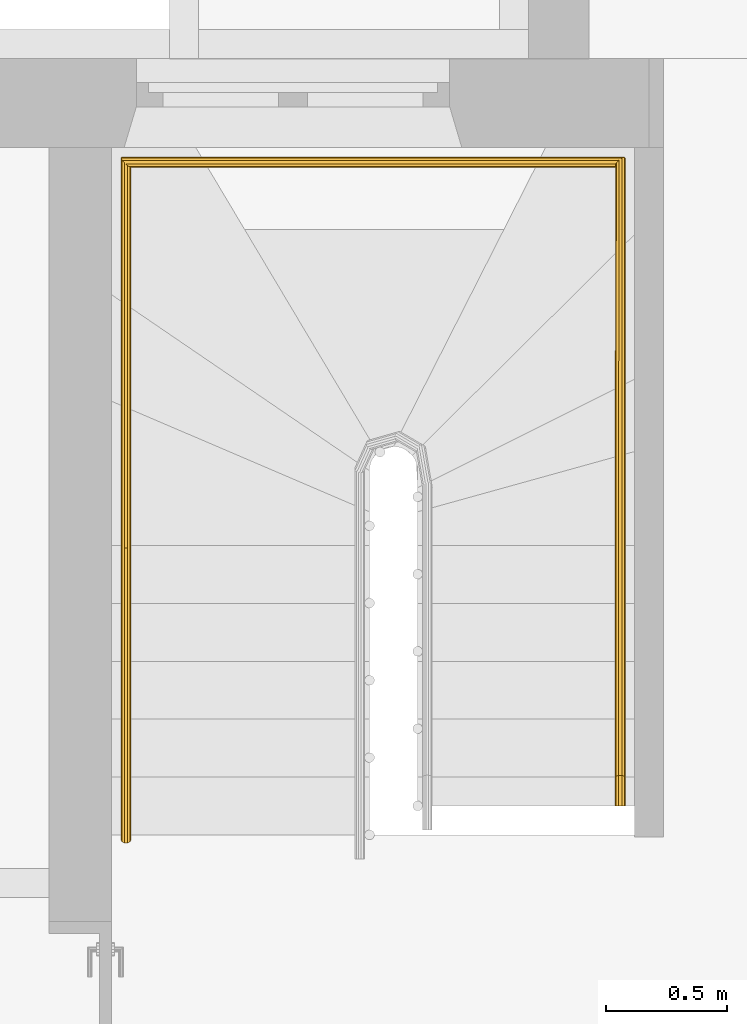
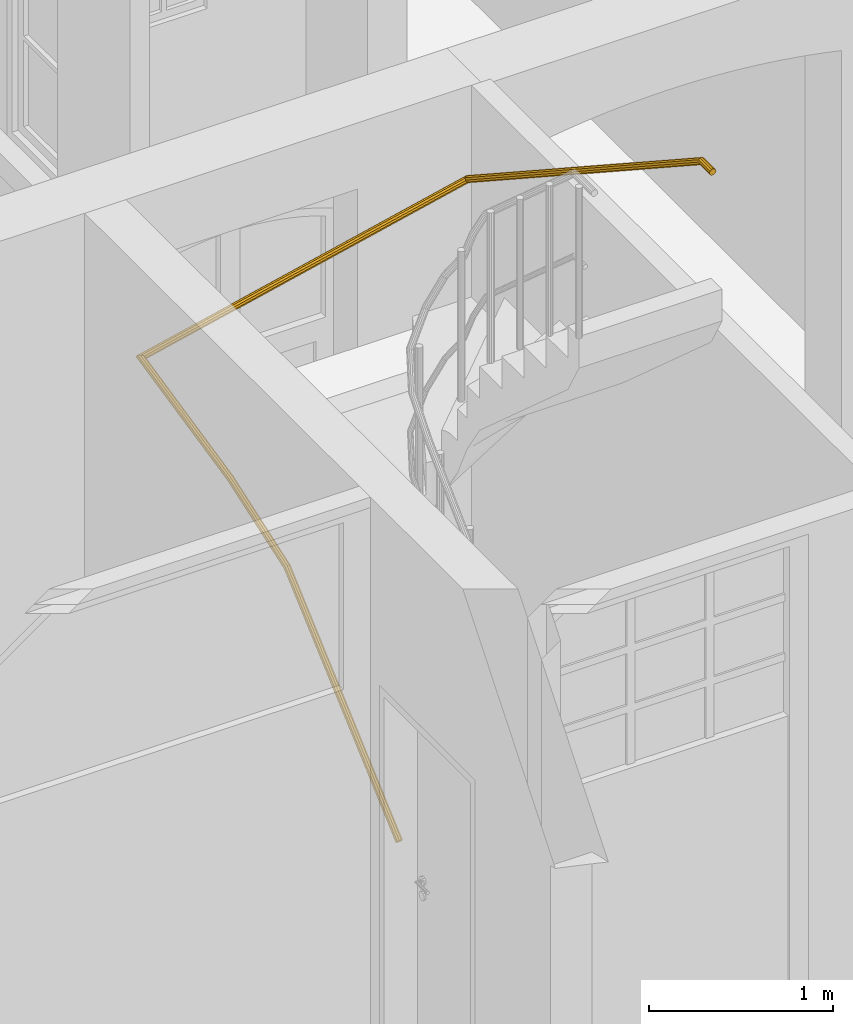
"""IFC4 building model written with IfcOpenShell, lengths in metres."""

from ifc_helpers import new_model, entity, si_unit, converted_unit, derived_unit, frame, origin, place, context, subcontext, project, spatial, faceted_brep, material, element, save


model = new_model("IFC4")

# Units and contexts
model_context = context("Model", 3, precision=1e-05, world=origin())
body_context = subcontext(model_context, "Body", "Model", "MODEL_VIEW")
ifc_project = project(units=[si_unit("LENGTHUNIT", "METRE"), si_unit("AREAUNIT", "SQUARE_METRE"), si_unit("VOLUMEUNIT", "CUBIC_METRE"), si_unit("MASSUNIT", "GRAM", prefix="KILO"), converted_unit("PLANEANGLEUNIT", "DEGREE", entity("IfcPlaneAngleMeasure", 0.0174532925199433), si_unit("PLANEANGLEUNIT", "RADIAN"), dimensions=[0, 0, 0, 0, 0, 0, 0]), derived_unit("THERMALTRANSMITTANCEUNIT", [(si_unit("POWERUNIT", "WATT"), 1), (si_unit("THERMODYNAMICTEMPERATUREUNIT", "KELVIN"), -1), (si_unit("LENGTHUNIT", "METRE"), -2)]), derived_unit("VOLUMETRICFLOWRATEUNIT", [(si_unit("LENGTHUNIT", "METRE"), 3), (converted_unit("TIMEUNIT", "hour", entity("IfcTimeMeasure", 3600.0), si_unit("TIMEUNIT", "SECOND"), dimensions=[0, 0, 1, 0, 0, 0, 0]), -1), (si_unit("LENGTHUNIT", "METRE"), -1)])], contexts=[model_context])

# Building, storeys
building_placement = place(None, origin())
building = spatial("IfcBuilding", under=ifc_project, at=building_placement, Name="Bestandsgebäude A - Sporthalle / Wohnhaus (TB 100-499)   ANPASSEN !!!", CompositionType="ELEMENT")
storey_1_placement = place(building_placement, frame((0.0, 0.0, 3.87)))
storey_1 = spatial("IfcBuildingStorey", under=building, at=storey_1_placement, Name="Geb. A 1. Obergeschoss (TB 250-299)", CompositionType="ELEMENT", Elevation=3.87)
storey_2_placement = place(storey_1_placement, frame((0.0, 0.0, 3.87)))
storey_2 = spatial("IfcBuildingStorey", under=storey_1, at=storey_2_placement, Name="Architektur (TB 250-259)", CompositionType="PARTIAL")

# Railing
ifc_material = material(Name="steel")
railing_placement = place(storey_2_placement, frame((-5.18102924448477, 5.9967127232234, -2.98939263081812)))
element("IfcRailing", 1, at=railing_placement, inside=storey_2, material=ifc_material, Name="handrail with wall bracket", PredefinedType="HANDRAIL", context=body_context, shape_type="Brep", body=[
    faceted_brep([(0.0, 0.0132872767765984, 0.0149481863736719), (0.00401622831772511, 0.00507528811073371, 0.0241866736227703), (0.014530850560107, 0.0, 0.0298963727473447), (0.0275276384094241, 0.0, 0.0298963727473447), (0.0380422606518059, 0.00507528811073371, 0.0241866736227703), (0.042058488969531, 0.0132872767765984, 0.0149481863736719), (0.0380422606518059, 0.0214992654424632, 0.00570969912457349), (0.0275276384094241, 0.0265745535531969, 0.0), (0.014530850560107, 0.0265745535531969, 0.0), (0.00401622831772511, 0.0214992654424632, 0.00570969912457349), (0.0, 1.23328727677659, 1.09939263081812), (0.00401622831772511, 1.22691704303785, 1.11026823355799), (0.0145308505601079, 1.22298002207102, 1.11698972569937), (0.0275276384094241, 1.22298002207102, 1.11698972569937), (0.0380422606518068, 1.22691704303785, 1.11026823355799), (0.042058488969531, 1.23328727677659, 1.09939263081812), (0.0380422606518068, 1.23965751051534, 1.08851702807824), (0.0275276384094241, 1.24359453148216, 1.08179553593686), (0.0145308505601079, 1.24359453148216, 1.08179553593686), (0.00401622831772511, 1.23965751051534, 1.08851702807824), (0.0, 1.84989460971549, 1.31272596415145), (0.0040162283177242, 1.84653922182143, 1.32464464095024), (0.014530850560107, 1.84446547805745, 1.33201078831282), (0.0275276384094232, 1.84446547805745, 1.33201078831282), (0.0380422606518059, 1.84653922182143, 1.32464464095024), (0.0420584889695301, 1.84989460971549, 1.31272596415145), (0.0380422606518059, 1.85324999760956, 1.30080728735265), (0.0275276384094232, 1.85532374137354, 1.29344113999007), (0.014530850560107, 1.85532374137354, 1.29344113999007), (0.0040162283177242, 1.85324999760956, 1.30080728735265), (0.0, 2.84240887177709, 1.53025007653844), (0.00139086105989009, 2.84292566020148, 1.52598110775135), (0.000660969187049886, 2.84096126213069, 1.53201534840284), (0.00765754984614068, 2.84169115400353, 1.51473035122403), (0.00335525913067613, 2.84365555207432, 1.51995178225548), (0.00401622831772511, 2.84390114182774, 1.51792307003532), (0.0128004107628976, 2.83856985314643, 1.51022107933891), (0.0145308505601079, 2.83751961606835, 1.5087038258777), (0.0190317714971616, 2.83342699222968, 1.50780686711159), (0.0311689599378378, 2.821289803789, 1.50785519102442), (0.0253886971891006, 2.82764672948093, 1.50654003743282), (0.0275276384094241, 2.82570182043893, 1.50611378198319), (0.0363118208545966, 2.81505844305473, 1.51031468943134), (0.0380422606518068, 2.81296175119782, 1.51114224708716), (0.0394331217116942, 2.80991558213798, 1.51485686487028), (0.0406676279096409, 2.80364889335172, 1.52613748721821), (0.0413975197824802, 2.80561329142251, 1.52010324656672), (0.042058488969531, 2.8041656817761, 1.52186851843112), (0.0387032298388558, 2.80291900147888, 1.53216681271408), (0.0380422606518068, 2.80267341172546, 1.53419552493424), (0.0344009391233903, 2.80488339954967, 1.53738824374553), (0.0230267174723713, 2.81314756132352, 1.54431172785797), (0.0292580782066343, 2.80800470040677, 1.54189751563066), (0.0275276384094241, 2.80905493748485, 1.54341476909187), (0.0166697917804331, 2.81892782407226, 1.54557855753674), (0.0145308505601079, 2.82087273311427, 1.54600481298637), (0.0108895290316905, 2.8252847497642, 1.54426340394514), (0.00262536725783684, 2.83665897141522, 1.53726173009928), (0.00574666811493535, 2.83151611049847, 1.54180390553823), (0.00401622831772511, 2.83361280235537, 1.5409763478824), (0.00190764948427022, 2.84431652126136, 1.52170865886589), (0.000415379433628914, 2.84030029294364, 1.53404571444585), (0.00679690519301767, 2.82978567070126, 1.54333223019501), (0.0186147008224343, 2.81678888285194, 1.54602107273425), (0.0313547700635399, 2.80627426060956, 1.54108519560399), (0.0401508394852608, 2.80225803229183, 1.53040993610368), (0.0416431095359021, 2.80627426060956, 1.51807288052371), (0.0352615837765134, 2.81678888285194, 1.50878636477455), (0.0234437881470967, 2.82978567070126, 1.50609752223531), (0.0107037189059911, 2.84030029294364, 1.51103339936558), (2.08707846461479, 2.84431652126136, 1.99613689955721), (2.08766941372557, 2.8438892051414, 1.99492260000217), (2.08249759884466, 2.84270293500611, 2.00018766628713), (2.0892109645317, 2.82840284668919, 1.97611095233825), (2.09118791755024, 2.83401009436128, 1.97970842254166), (2.09021766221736, 2.82978567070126, 1.97634000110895), (2.08455736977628, 2.8220105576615, 1.97505214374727), (2.08075598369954, 2.81678888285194, 1.97418723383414), (2.07938405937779, 2.81567015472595, 1.97470866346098), (2.06664851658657, 2.8058469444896, 1.98016074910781), (2.07304215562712, 2.81049868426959, 1.97711904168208), (2.06786163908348, 2.80627426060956, 1.97908800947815), (2.06104069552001, 2.80387161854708, 1.98511963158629), (2.05645982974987, 2.80225803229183, 1.9891703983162), (2.0558688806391, 2.80268534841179, 1.99038469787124), (2.05116260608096, 2.80739298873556, 2.00147530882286), (2.05313713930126, 2.8046606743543, 1.9959979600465), (2.0509056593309, 2.80627426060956, 2.00058327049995), (2.05235037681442, 2.81256445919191, 2.00559887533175), (2.05332063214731, 2.81678888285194, 2.00896729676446), (2.05432732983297, 2.81817170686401, 2.00919634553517), (2.06415423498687, 2.83090439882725, 2.01059863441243), (2.0589809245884, 2.8245639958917, 2.01025515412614), (2.06278231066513, 2.82978567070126, 2.01112006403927), (2.07049613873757, 2.83607586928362, 2.00818825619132), (2.07567665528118, 2.84030029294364, 2.00621928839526), (2.07688977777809, 2.8407276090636, 2.0051465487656), (2.09237568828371, 2.83918156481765, 1.98383198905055), (2.09040115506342, 2.84191387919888, 1.98930933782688), (2.09263263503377, 2.84030029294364, 1.98472402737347), (2.09280283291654, 2.83859049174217, 1.98264709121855), (2.07827289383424, 2.84173390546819, 2.0044885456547), (2.06527336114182, 2.83227599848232, 2.01067293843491), (2.05475499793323, 2.81938470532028, 2.00997457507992), (2.05073546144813, 2.80798406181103, 2.00266020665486), (2.05475007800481, 2.80242872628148, 1.99152367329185), (2.06526540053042, 2.80484064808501, 1.98081875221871), (2.07826493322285, 2.81429855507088, 1.97463435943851), (2.08878329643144, 2.82718984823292, 1.97533272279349), (2.08878821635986, 2.84414582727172, 1.99378362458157), (2.09205848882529, 0.273292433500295, 3.65939096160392), (2.08804332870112, 0.276974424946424, 3.67175196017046), (2.07752936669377, 0.27925137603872, 3.67939211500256), (2.0645325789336, 0.279253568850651, 3.67939314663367), (2.05401729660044, 0.276980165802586, 3.67175466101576), (2.05000000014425, 0.273299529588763, 3.65939430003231), (2.05401516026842, 0.269617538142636, 3.64703330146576), (2.06452912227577, 0.267340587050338, 3.63939314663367), (2.07752591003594, 0.267338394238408, 3.63939211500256), (2.0880411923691, 0.269611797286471, 3.64703060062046), (2.09205848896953, 0.1522872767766, 3.65939263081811), (2.08804226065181, 0.1522872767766, 3.64703195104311), (2.07752763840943, 0.1522872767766, 3.63939263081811), (2.06453085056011, 0.1522872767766, 3.63939263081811), (2.05401622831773, 0.1522872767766, 3.64703195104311), (2.05, 0.1522872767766, 3.65939263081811), (2.05401622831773, 0.1522872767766, 3.67175331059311), (2.06453085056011, 0.1522872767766, 3.67939263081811), (2.07752763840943, 0.1522872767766, 3.67939263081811), (2.08804226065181, 0.1522872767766, 3.67175331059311)], [[[0, 1, 2, 3, 4, 5, 6, 7, 8, 9]], [[0, 10, 11, 1]], [[1, 11, 12, 2]], [[2, 12, 13, 3]], [[3, 13, 14, 4]], [[4, 14, 15, 5]], [[5, 15, 16, 6]], [[6, 16, 17, 7]], [[7, 17, 18, 8]], [[8, 18, 19, 9]], [[9, 19, 10, 0]], [[10, 20, 21, 11]], [[11, 21, 22, 12]], [[12, 22, 23, 13]], [[13, 23, 24, 14]], [[14, 24, 25, 15]], [[15, 25, 26, 16]], [[16, 26, 27, 17]], [[17, 27, 28, 18]], [[18, 28, 29, 19]], [[19, 29, 20, 10]], [[30, 31, 32]], [[33, 34, 35]], [[36, 37, 38]], [[39, 40, 41]], [[42, 43, 44]], [[45, 46, 47]], [[48, 49, 50]], [[51, 52, 53]], [[54, 55, 56]], [[57, 58, 59]], [[20, 30, 32, 57, 59, 21]], [[21, 59, 58, 56, 55, 22]], [[22, 55, 54, 51, 53, 23]], [[23, 53, 52, 50, 49, 24]], [[24, 49, 48, 45, 47, 25]], [[25, 47, 46, 44, 43, 26]], [[26, 43, 42, 39, 41, 27]], [[27, 41, 40, 38, 37, 28]], [[28, 37, 36, 33, 35, 29]], [[29, 35, 34, 31, 30, 20]], [[60, 31, 34]], [[57, 32, 61]], [[58, 62, 56]], [[51, 54, 63]], [[52, 64, 50]], [[45, 48, 65]], [[46, 66, 44]], [[39, 42, 67]], [[40, 68, 38]], [[33, 36, 69]], [[70, 71, 72]], [[73, 74, 75]], [[76, 77, 78]], [[79, 80, 81]], [[82, 83, 84]], [[85, 86, 87]], [[88, 89, 90]], [[91, 92, 93]], [[94, 95, 96]], [[97, 98, 99]], [[60, 70, 72, 96, 95, 61, 32, 31]], [[61, 95, 94, 91, 93, 62, 58, 57]], [[62, 93, 92, 90, 89, 63, 54, 56]], [[63, 89, 88, 85, 87, 64, 52, 51]], [[64, 87, 86, 84, 83, 65, 48, 50]], [[65, 83, 82, 79, 81, 66, 46, 45]], [[66, 81, 80, 78, 77, 67, 42, 44]], [[67, 77, 76, 73, 75, 68, 40, 39]], [[68, 75, 74, 97, 99, 69, 36, 38]], [[69, 99, 98, 71, 70, 60, 34, 33]], [[100, 97, 74]], [[96, 72, 101]], [[94, 102, 91]], [[90, 92, 103]], [[88, 104, 85]], [[84, 86, 105]], [[82, 106, 79]], [[78, 80, 107]], [[76, 108, 73]], [[71, 98, 109]], [[100, 110, 111, 109, 98, 97]], [[109, 111, 112, 101, 72, 71]], [[101, 112, 113, 102, 94, 96]], [[102, 113, 114, 103, 92, 91]], [[103, 114, 115, 104, 88, 90]], [[104, 115, 116, 105, 86, 85]], [[105, 116, 117, 106, 82, 84]], [[106, 117, 118, 107, 80, 79]], [[107, 118, 119, 108, 76, 78]], [[108, 119, 110, 100, 74, 73]], [[120, 121, 122, 123, 124, 125, 126, 127, 128, 129]], [[110, 120, 129, 111]], [[111, 129, 128, 112]], [[112, 128, 127, 113]], [[113, 127, 126, 114]], [[114, 126, 125, 115]], [[115, 125, 124, 116]], [[116, 124, 123, 117]], [[117, 123, 122, 118]], [[118, 122, 121, 119]], [[119, 121, 120, 110]]], orient=[[False], [False], [False], [False], [False], [False], [False], [False], [False], [False], [False], [False], [False], [False], [False], [False], [False], [False], [False], [False], [False], [False], [False], [False], [False], [False], [False], [False], [False], [False], [False], [False], [False], [False], [False], [False], [False], [False], [False], [False], [False], [False], [False], [False], [False], [False], [False], [False], [False], [False], [False], [False], [False], [False], [False], [False], [False], [False], [False], [False], [False], [False], [False], [False], [False], [False], [False], [False], [False], [False], [False], [False], [False], [False], [False], [False], [False], [False], [False], [False], [False], [False], [False], [False], [False], [False], [False], [False], [False], [False], [False], [False], [False], [False], [False], [False], [False], [False], [False], [False], [False], [False]]),
])

save(model, "model.ifc")
